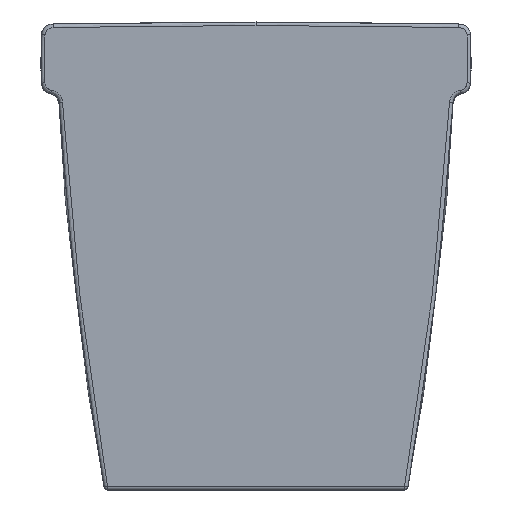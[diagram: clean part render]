
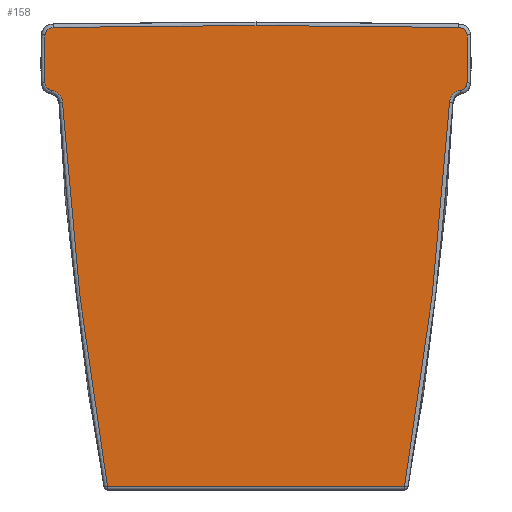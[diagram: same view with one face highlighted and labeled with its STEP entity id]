
A CAD part, left-side view. The second image highlights one B-rep face of the part: STEP entity #158.
In plain terms, the highlighted planar face has unit normal (-1, 0, 0).
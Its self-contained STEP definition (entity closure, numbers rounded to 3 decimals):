
#127=LINE('',#1856,#129);
#129=VECTOR('',#1415,1.);
#132=PLANE('',#1378);
#158=ADVANCED_FACE('',(#285),#132,.T.);
#285=FACE_OUTER_BOUND('',#366,.T.);
#366=EDGE_LOOP('',(#465,#466,#467,#468,#469,#470,#471,#472,#473,#474,#475,
#476,#477));
#465=ORIENTED_EDGE('',*,*,#1013,.T.);
#466=ORIENTED_EDGE('',*,*,#1014,.T.);
#467=ORIENTED_EDGE('',*,*,#1015,.T.);
#468=ORIENTED_EDGE('',*,*,#1016,.T.);
#469=ORIENTED_EDGE('',*,*,#1017,.T.);
#470=ORIENTED_EDGE('',*,*,#1018,.T.);
#471=ORIENTED_EDGE('',*,*,#1019,.T.);
#472=ORIENTED_EDGE('',*,*,#1020,.T.);
#473=ORIENTED_EDGE('',*,*,#1021,.T.);
#474=ORIENTED_EDGE('',*,*,#1022,.T.);
#475=ORIENTED_EDGE('',*,*,#1023,.T.);
#476=ORIENTED_EDGE('',*,*,#1024,.T.);
#477=ORIENTED_EDGE('',*,*,#1025,.T.);
#883=VERTEX_POINT('',#1849);
#884=VERTEX_POINT('',#1850);
#885=VERTEX_POINT('',#1855);
#886=VERTEX_POINT('',#1857);
#887=VERTEX_POINT('',#1862);
#888=VERTEX_POINT('',#1869);
#889=VERTEX_POINT('',#1876);
#890=VERTEX_POINT('',#1881);
#891=VERTEX_POINT('',#1888);
#892=VERTEX_POINT('',#1893);
#893=VERTEX_POINT('',#1898);
#894=VERTEX_POINT('',#1905);
#895=VERTEX_POINT('',#1910);
#1013=EDGE_CURVE('',#883,#884,#1220,.T.);
#1014=EDGE_CURVE('',#884,#885,#1221,.T.);
#1015=EDGE_CURVE('',#885,#886,#127,.T.);
#1016=EDGE_CURVE('',#886,#887,#1222,.T.);
#1017=EDGE_CURVE('',#887,#888,#1223,.T.);
#1018=EDGE_CURVE('',#888,#889,#1224,.T.);
#1019=EDGE_CURVE('',#889,#890,#1225,.T.);
#1020=EDGE_CURVE('',#890,#891,#1226,.T.);
#1021=EDGE_CURVE('',#891,#892,#1227,.T.);
#1022=EDGE_CURVE('',#892,#893,#1228,.T.);
#1023=EDGE_CURVE('',#893,#894,#1229,.T.);
#1024=EDGE_CURVE('',#894,#895,#1230,.T.);
#1025=EDGE_CURVE('',#895,#883,#1231,.T.);
#1220=B_SPLINE_CURVE_WITH_KNOTS('',3,(#1843,#1844,#1845,#1846,#1847,#1848),
 .UNSPECIFIED.,.F.,.F.,(4,2,4),(0.,0.5,1.),.UNSPECIFIED.);
#1221=B_SPLINE_CURVE_WITH_KNOTS('',3,(#1851,#1852,#1853,#1854),
 .UNSPECIFIED.,.F.,.F.,(4,4),(0.,1.),.UNSPECIFIED.);
#1222=B_SPLINE_CURVE_WITH_KNOTS('',3,(#1858,#1859,#1860,#1861),
 .UNSPECIFIED.,.F.,.F.,(4,4),(0.,1.),.UNSPECIFIED.);
#1223=B_SPLINE_CURVE_WITH_KNOTS('',3,(#1863,#1864,#1865,#1866,#1867,#1868),
 .UNSPECIFIED.,.F.,.F.,(4,2,4),(0.,0.5,1.),.UNSPECIFIED.);
#1224=B_SPLINE_CURVE_WITH_KNOTS('',3,(#1870,#1871,#1872,#1873,#1874,#1875),
 .UNSPECIFIED.,.F.,.F.,(4,2,4),(0.,0.5,1.),.UNSPECIFIED.);
#1225=B_SPLINE_CURVE_WITH_KNOTS('',3,(#1877,#1878,#1879,#1880),
 .UNSPECIFIED.,.F.,.F.,(4,4),(0.,1.),.UNSPECIFIED.);
#1226=B_SPLINE_CURVE_WITH_KNOTS('',3,(#1882,#1883,#1884,#1885,#1886,#1887),
 .UNSPECIFIED.,.F.,.F.,(4,2,4),(0.,0.5,1.),.UNSPECIFIED.);
#1227=B_SPLINE_CURVE_WITH_KNOTS('',3,(#1889,#1890,#1891,#1892),
 .UNSPECIFIED.,.F.,.F.,(4,4),(0.,1.),.UNSPECIFIED.);
#1228=B_SPLINE_CURVE_WITH_KNOTS('',3,(#1894,#1895,#1896,#1897),
 .UNSPECIFIED.,.F.,.F.,(4,4),(0.,1.),.UNSPECIFIED.);
#1229=B_SPLINE_CURVE_WITH_KNOTS('',3,(#1899,#1900,#1901,#1902,#1903,#1904),
 .UNSPECIFIED.,.F.,.F.,(4,2,4),(0.,0.5,1.),.UNSPECIFIED.);
#1230=B_SPLINE_CURVE_WITH_KNOTS('',3,(#1906,#1907,#1908,#1909),
 .UNSPECIFIED.,.F.,.F.,(4,4),(0.,1.),.UNSPECIFIED.);
#1231=B_SPLINE_CURVE_WITH_KNOTS('',3,(#1911,#1912,#1913,#1914,#1915,#1916),
 .UNSPECIFIED.,.F.,.F.,(4,2,4),(0.,0.5,1.),.UNSPECIFIED.);
#1378=AXIS2_PLACEMENT_3D('',#1917,#1416,#1417);
#1415=DIRECTION('',(0.,-1.,0.));
#1416=DIRECTION('',(-1.,0.,0.));
#1417=DIRECTION('',(0.,0.,1.));
#1843=CARTESIAN_POINT('',(0.,175.733,-56.909));
#1844=CARTESIAN_POINT('',(0.,173.189,-57.225));
#1845=CARTESIAN_POINT('',(0.,170.825,-58.428));
#1846=CARTESIAN_POINT('',(0.,167.323,-62.151));
#1847=CARTESIAN_POINT('',(0.,166.267,-64.583));
#1848=CARTESIAN_POINT('',(0.,166.108,-67.141));
#1849=CARTESIAN_POINT('',(0.,175.733,-56.909));
#1850=CARTESIAN_POINT('',(0.,166.108,-67.141));
#1851=CARTESIAN_POINT('',(0.,166.108,-67.141));
#1852=CARTESIAN_POINT('',(0.,159.204,-177.794));
#1853=CARTESIAN_POINT('',(0.,146.315,-287.746));
#1854=CARTESIAN_POINT('',(0.,127.474,-397.001));
#1855=CARTESIAN_POINT('',(0.,127.474,-397.001));
#1856=CARTESIAN_POINT('',(0.,185.,-397.001));
#1857=CARTESIAN_POINT('',(0.,-127.474,-397.001));
#1858=CARTESIAN_POINT('',(0.,-127.474,-397.001));
#1859=CARTESIAN_POINT('',(0.,-146.301,-287.826));
#1860=CARTESIAN_POINT('',(0.,-159.209,-177.712));
#1861=CARTESIAN_POINT('',(0.,-166.108,-67.141));
#1862=CARTESIAN_POINT('',(0.,-166.108,-67.141));
#1863=CARTESIAN_POINT('',(0.,-166.108,-67.141));
#1864=CARTESIAN_POINT('',(0.,-166.267,-64.58));
#1865=CARTESIAN_POINT('',(0.,-167.323,-62.149));
#1866=CARTESIAN_POINT('',(0.,-170.831,-58.423));
#1867=CARTESIAN_POINT('',(0.,-173.186,-57.225));
#1868=CARTESIAN_POINT('',(0.,-175.733,-56.909));
#1869=CARTESIAN_POINT('',(0.,-175.733,-56.909));
#1870=CARTESIAN_POINT('',(0.,-175.733,-56.909));
#1871=CARTESIAN_POINT('',(0.,-177.247,-56.724));
#1872=CARTESIAN_POINT('',(0.,-178.625,-55.864));
#1873=CARTESIAN_POINT('',(0.,-180.482,-53.527));
#1874=CARTESIAN_POINT('',(0.,-181.02,-52.068));
#1875=CARTESIAN_POINT('',(0.,-181.139,-50.554));
#1876=CARTESIAN_POINT('',(0.,-181.139,-50.554));
#1877=CARTESIAN_POINT('',(0.,-181.139,-50.554));
#1878=CARTESIAN_POINT('',(0.,-182.207,-36.852));
#1879=CARTESIAN_POINT('',(0.,-182.221,-23.151));
#1880=CARTESIAN_POINT('',(0.,-181.137,-9.449));
#1881=CARTESIAN_POINT('',(0.,-181.137,-9.449));
#1882=CARTESIAN_POINT('',(0.,-181.137,-9.449));
#1883=CARTESIAN_POINT('',(0.,-180.997,-7.677));
#1884=CARTESIAN_POINT('',(0.,-180.127,-6.013));
#1885=CARTESIAN_POINT('',(0.,-177.486,-3.695));
#1886=CARTESIAN_POINT('',(0.,-175.745,-3.034));
#1887=CARTESIAN_POINT('',(0.,-173.97,-3.));
#1888=CARTESIAN_POINT('',(0.,-173.97,-3.));
#1889=CARTESIAN_POINT('',(0.,-173.97,-3.));
#1890=CARTESIAN_POINT('',(0.,-115.985,-1.882));
#1891=CARTESIAN_POINT('',(0.,-57.995,-1.323));
#1892=CARTESIAN_POINT('',(0.,0.,-1.323));
#1893=CARTESIAN_POINT('',(0.,0.,-1.323));
#1894=CARTESIAN_POINT('',(0.,0.,-1.323));
#1895=CARTESIAN_POINT('',(0.,57.994,-1.323));
#1896=CARTESIAN_POINT('',(0.,115.987,-1.882));
#1897=CARTESIAN_POINT('',(0.,173.97,-3.));
#1898=CARTESIAN_POINT('',(0.,173.97,-3.));
#1899=CARTESIAN_POINT('',(0.,173.97,-3.));
#1900=CARTESIAN_POINT('',(0.,175.747,-3.034));
#1901=CARTESIAN_POINT('',(0.,177.472,-3.683));
#1902=CARTESIAN_POINT('',(0.,180.136,-6.021));
#1903=CARTESIAN_POINT('',(0.,180.997,-7.674));
#1904=CARTESIAN_POINT('',(0.,181.137,-9.449));
#1905=CARTESIAN_POINT('',(0.,181.137,-9.449));
#1906=CARTESIAN_POINT('',(0.,181.137,-9.449));
#1907=CARTESIAN_POINT('',(0.,182.221,-23.151));
#1908=CARTESIAN_POINT('',(0.,182.207,-36.853));
#1909=CARTESIAN_POINT('',(0.,181.138,-50.555));
#1910=CARTESIAN_POINT('',(0.,181.138,-50.555));
#1911=CARTESIAN_POINT('',(0.,181.138,-50.555));
#1912=CARTESIAN_POINT('',(0.,181.02,-52.067));
#1913=CARTESIAN_POINT('',(0.,180.482,-53.529));
#1914=CARTESIAN_POINT('',(0.,178.617,-55.872));
#1915=CARTESIAN_POINT('',(0.,177.245,-56.724));
#1916=CARTESIAN_POINT('',(0.,175.733,-56.909));
#1917=CARTESIAN_POINT('',(0.,185.,21.));
